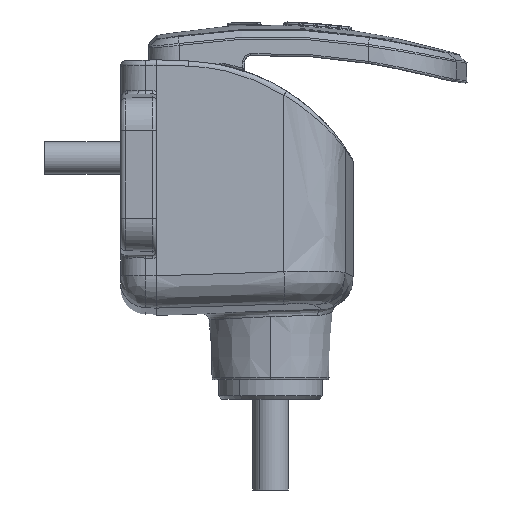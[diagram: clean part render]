
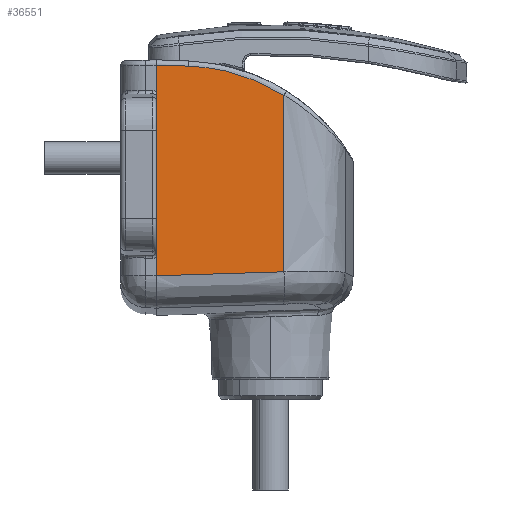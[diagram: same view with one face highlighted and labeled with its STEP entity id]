
A CAD part, left-side view. The second image highlights one B-rep face of the part: STEP entity #36551.
In plain terms, the highlighted planar face has unit normal (-0.999, -0.052, 0).
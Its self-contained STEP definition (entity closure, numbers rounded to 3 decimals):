
#1236 = CARTESIAN_POINT ( 'NONE',  ( -33.968, -7.614, 24.526 ) ) ;
#2466 = B_SPLINE_CURVE_WITH_KNOTS ( 'NONE', 3,
 ( #41354, #24827, #8550, #31568 ),
 .UNSPECIFIED., .F., .F.,
 ( 4, 4 ),
 ( 0.157, 0.973 ),
 .UNSPECIFIED. ) ;
#3558 = AXIS2_PLACEMENT_3D ( 'NONE', #17162, #27129, #7406 ) ;
#4096 = PLANE ( 'NONE',  #3558 ) ;
#6015 = VERTEX_POINT ( 'NONE', #12130 ) ;
#6136 = CARTESIAN_POINT ( 'NONE',  ( -35., 12.075, -3.281 ) ) ;
#6402 = CARTESIAN_POINT ( 'NONE',  ( -35., 12.075, 29.201 ) ) ;
#7406 = DIRECTION ( 'NONE',  ( 0.052, -0.999, 0. ) ) ;
#7880 = CARTESIAN_POINT ( 'NONE',  ( -34.737, 7.061, 29.026 ) ) ;
#8550 = CARTESIAN_POINT ( 'NONE',  ( -33.968, -7.614, 15.461 ) ) ;
#9429 = CARTESIAN_POINT ( 'NONE',  ( -34.312, -1.056, -2.872 ) ) ;
#12130 = CARTESIAN_POINT ( 'NONE',  ( -33.968, -7.614, 24.526 ) ) ;
#12817 = EDGE_CURVE ( 'NONE', #6015, #16900, #17268, .T. ) ;
#12896 = CARTESIAN_POINT ( 'NONE',  ( -35.001, 12.102, 29.202 ) ) ;
#13247 = ORIENTED_EDGE ( 'NONE', *, *, #12817, .T. ) ;
#13444 = ORIENTED_EDGE ( 'NONE', *, *, #32913, .T. ) ;
#14485 = CARTESIAN_POINT ( 'NONE',  ( -33.968, -7.614, -2.667 ) ) ;
#15265 = VECTOR ( 'NONE', #22363, 1000. ) ;
#16174 = DIRECTION ( 'NONE',  ( -0.052, 0.998, 0.035 ) ) ;
#16900 = VERTEX_POINT ( 'NONE', #37412 ) ;
#17162 = CARTESIAN_POINT ( 'NONE',  ( -35., 12.075, 30. ) ) ;
#17268 =( BOUNDED_CURVE ( )  B_SPLINE_CURVE ( 3, ( #1236, #17383, #27606, #7880 ),
 .UNSPECIFIED., .F., .T. ) 
 B_SPLINE_CURVE_WITH_KNOTS ( ( 4, 4 ),
 ( 1.011, 1.536 ),
 .UNSPECIFIED. ) 
 CURVE ( )  GEOMETRIC_REPRESENTATION_ITEM ( )  RATIONAL_B_SPLINE_CURVE ( ( 1., 0.977, 0.977, 1. ) ) 
 REPRESENTATION_ITEM ( '' )  );
#17383 = CARTESIAN_POINT ( 'NONE',  ( -34.201, -3.178, 27.308 ) ) ;
#19036 = CARTESIAN_POINT ( 'NONE',  ( -35., 12.075, 30. ) ) ;
#19182 = CARTESIAN_POINT ( 'NONE',  ( -34.656, 5.507, -3.077 ) ) ;
#19417 = ORIENTED_EDGE ( 'NONE', *, *, #36395, .T. ) ;
#20354 = ORIENTED_EDGE ( 'NONE', *, *, #21888, .T. ) ;
#21546 = ORIENTED_EDGE ( 'NONE', *, *, #39800, .F. ) ;
#21888 = EDGE_CURVE ( 'NONE', #32671, #6015, #2466, .T. ) ;
#22363 = DIRECTION ( 'NONE',  ( 0., 0., 1. ) ) ;
#23374 = VERTEX_POINT ( 'NONE', #6402 ) ;
#23410 = FACE_OUTER_BOUND ( 'NONE', #38954, .T. ) ;
#24827 = CARTESIAN_POINT ( 'NONE',  ( -33.968, -7.614, 6.397 ) ) ;
#25020 = LINE ( 'NONE', #12896, #27113 ) ;
#27113 = VECTOR ( 'NONE', #16174, 1000. ) ;
#27129 = DIRECTION ( 'NONE',  ( -0.999, -0.052, 0. ) ) ;
#27606 = CARTESIAN_POINT ( 'NONE',  ( -34.463, 1.828, 28.843 ) ) ;
#31568 = CARTESIAN_POINT ( 'NONE',  ( -33.968, -7.614, 24.526 ) ) ;
#32454 = CARTESIAN_POINT ( 'NONE',  ( -33.968, -7.614, -2.667 ) ) ;
#32671 = VERTEX_POINT ( 'NONE', #14485 ) ;
#32721 = VERTEX_POINT ( 'NONE', #40819 ) ;
#32913 = EDGE_CURVE ( 'NONE', #16900, #23374, #25020, .T. ) ;
#36109 =( BOUNDED_CURVE ( )  B_SPLINE_CURVE ( 3, ( #6136, #19182, #9429, #32454 ),
 .UNSPECIFIED., .F., .F. ) 
 B_SPLINE_CURVE_WITH_KNOTS ( ( 4, 4 ),
 ( 2.243, 2.245 ),
 .UNSPECIFIED. ) 
 CURVE ( )  GEOMETRIC_REPRESENTATION_ITEM ( )  RATIONAL_B_SPLINE_CURVE ( ( 1., 1., 1., 1. ) ) 
 REPRESENTATION_ITEM ( '' )  );
#36395 = EDGE_CURVE ( 'NONE', #32721, #32671, #36109, .T. ) ;
#36551 = ADVANCED_FACE ( 'NONE', ( #23410 ), #4096, .T. ) ;
#37412 = CARTESIAN_POINT ( 'NONE',  ( -34.737, 7.061, 29.026 ) ) ;
#38954 = EDGE_LOOP ( 'NONE', ( #13247, #13444, #21546, #19417, #20354 ) ) ;
#39800 = EDGE_CURVE ( 'NONE', #32721, #23374, #41538, .T. ) ;
#40819 = CARTESIAN_POINT ( 'NONE',  ( -35., 12.075, -3.281 ) ) ;
#41354 = CARTESIAN_POINT ( 'NONE',  ( -33.968, -7.614, -2.667 ) ) ;
#41538 = LINE ( 'NONE', #19036, #15265 ) ;
